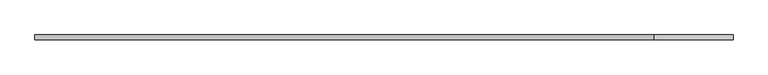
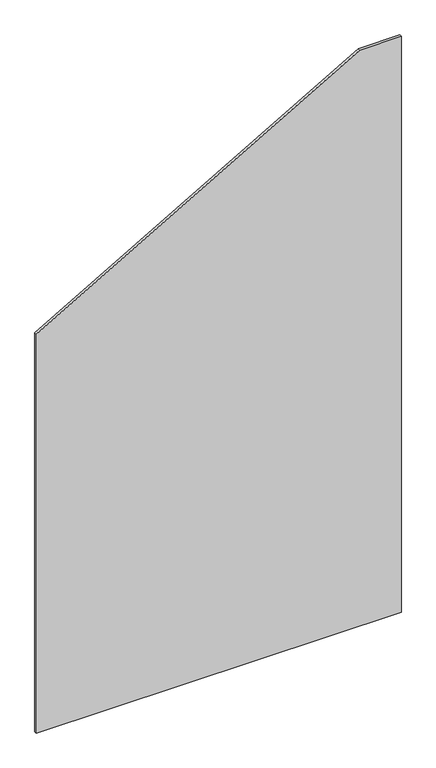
"""IFC4 building model written with IfcOpenShell, lengths in millimetres: plate geometry, 系統嵌板 : 玻璃 1.0cm."""

import ifcopenshell
import ifcopenshell.guid

model = None  # the IFC model being written
_history = None  # IfcOwnerHistory: only IFC2X3 demands one
_inside = {}  # id of a spatial element -> (the spatial element, [elements in it])
_under = {}  # id of a project, library or spatial element -> (it, [spatial elements below it])
_declared = {}  # id of a project -> (the project, [libraries it declares])
_typed = {}  # id of a type object -> (the type object, [elements of that type])
_made_of = {}  # id of a material, layer set ... -> (it, [elements and type objects made of it])


def new_model(schema):
    """Start an empty IFC model of exactly this schema.

    Asked for "IFC4X3", IfcOpenShell would pick the latest addendum, in which some entities
    have other attributes; the version numbers below select the first issue.
    IFC2X3 requires an IfcOwnerHistory on every rooted entity: one is made here for all.
    """
    global model, _history
    if schema == "IFC4X3":
        model = ifcopenshell.file(schema_version=(4, 3, 0, 0))
    else:
        model = ifcopenshell.file(schema=schema)
    _inside.clear()
    _under.clear()
    _declared.clear()
    _typed.clear()
    _made_of.clear()
    _history = None
    if model.schema == "IFC2X3":
        org = make("IfcOrganization", Name="unknown")
        user = make(
            "IfcPersonAndOrganization",
            ThePerson=make("IfcPerson", FamilyName="unknown"),
            TheOrganization=org,
        )
        app = make(
            "IfcApplication",
            ApplicationDeveloper=org,
            Version="unknown",
            ApplicationFullName="unknown",
            ApplicationIdentifier="unknown",
        )
        _history = make(
            "IfcOwnerHistory",
            OwningUser=user,
            OwningApplication=app,
            ChangeAction="ADDED",
            CreationDate=0,
        )
    return model


def make(cls, **values):
    """One entity of the class cls with the attributes given. An attribute that is None is left unset."""
    return model.create_entity(
        cls, **{name: value for name, value in values.items() if value is not None}
    )


def rooted(cls, **values):
    """An entity with a GlobalId (a new one), such as an element, a storey or a relation."""
    return make(cls, GlobalId=ifcopenshell.guid.new(), OwnerHistory=_history, **values)


def si_unit(unit_type, name, prefix=None):
    """IfcSIUnit, for example si_unit("LENGTHUNIT", "METRE", prefix="MILLI")."""
    return make("IfcSIUnit", UnitType=unit_type, Prefix=prefix, Name=name)


def assignment(units):
    """IfcUnitAssignment: the units of a project."""
    return None if units is None else make("IfcUnitAssignment", Units=units)


def point(xyz):
    """IfcCartesianPoint."""
    return None if xyz is None else make("IfcCartesianPoint", Coordinates=xyz)


def direction(xyz):
    """IfcDirection."""
    return None if xyz is None else make("IfcDirection", DirectionRatios=xyz)


def frame(location, z_axis=None, x_axis=None):
    """IfcAxis2Placement3D, a coordinate frame: its origin and axes. An axis left out is left unset."""
    return make(
        "IfcAxis2Placement3D",
        Location=point(location),
        Axis=direction(z_axis),
        RefDirection=direction(x_axis),
    )


def origin():
    """The frame at (0, 0, 0) with its axes left unset."""
    return frame((0.0, 0.0, 0.0))


def place(relative_to, where):
    """IfcLocalPlacement: puts the frame where relative to a parent placement (None: the world)."""
    return make(
        "IfcLocalPlacement", PlacementRelTo=relative_to, RelativePlacement=where
    )


def context(
    kind, dimensions, precision=None, world=None, true_north=None, identifier=None
):
    """IfcGeometricRepresentationContext, for example the 3D "Model" context."""
    return make(
        "IfcGeometricRepresentationContext",
        ContextIdentifier=identifier,
        ContextType=kind,
        CoordinateSpaceDimension=dimensions,
        Precision=precision,
        WorldCoordinateSystem=world,
        TrueNorth=true_north,
    )


def project(units=None, contexts=None):
    """IfcProject with its units and contexts."""
    return rooted(
        "IfcProject",
        Name="project",
        RepresentationContexts=contexts,
        UnitsInContext=assignment(units),
    )


def spatial(cls, under=None, at=None, **own):
    """A site, building, storey or space (cls), placed at a placement, below another one or the project."""
    s = rooted(cls, ObjectPlacement=at, **own)
    if under is not None:
        _under.setdefault(under.id(), (under, []))[1].append(s)
    return s


def polyline(points):
    """IfcPolyline through the points."""
    return make("IfcPolyline", Points=[point(p) for p in points])


def outline(outer, holes=None, kind="AREA"):
    """IfcArbitraryClosedProfileDef: a profile drawn as a closed curve; with holes, ...WithVoids."""
    if holes is None:
        return make("IfcArbitraryClosedProfileDef", ProfileType=kind, OuterCurve=outer)
    return make(
        "IfcArbitraryProfileDefWithVoids",
        ProfileType=kind,
        OuterCurve=outer,
        InnerCurves=holes,
    )


def extrude(swept, where, along, depth):
    """IfcExtrudedAreaSolid: the profile swept, set in the frame where, extruded along a direction by depth."""
    return make(
        "IfcExtrudedAreaSolid",
        SweptArea=swept,
        Position=where,
        ExtrudedDirection=direction(along),
        Depth=depth,
    )


def shape(context_of_items, identifier, shape_type, items):
    """IfcShapeRepresentation: the items that make up one representation, for example the "Body"."""
    return make(
        "IfcShapeRepresentation",
        ContextOfItems=context_of_items,
        RepresentationIdentifier=identifier,
        RepresentationType=shape_type,
        Items=items,
    )


def source(mapping_origin, context_of_items, identifier, shape_type, items):
    """IfcRepresentationMap: a shape defined once, which mapped items show again and again."""
    return make(
        "IfcRepresentationMap",
        MappingOrigin=mapping_origin,
        MappedRepresentation=shape(context_of_items, identifier, shape_type, items),
    )


def transform(
    local_origin,
    x_axis=None,
    y_axis=None,
    z_axis=None,
    scale=None,
    scale2=None,
    scale3=None,
    uniform=True,
):
    """IfcCartesianTransformationOperator3D, or its non-uniform kind. x_axis, y_axis, z_axis: its Axis1, 2, 3."""
    if uniform:
        return make(
            "IfcCartesianTransformationOperator3D",
            Axis1=direction(x_axis),
            Axis2=direction(y_axis),
            LocalOrigin=point(local_origin),
            Scale=scale,
            Axis3=direction(z_axis),
        )
    return make(
        "IfcCartesianTransformationOperator3DnonUniform",
        Axis1=direction(x_axis),
        Axis2=direction(y_axis),
        LocalOrigin=point(local_origin),
        Scale=scale,
        Axis3=direction(z_axis),
        Scale2=scale2,
        Scale3=scale3,
    )


def mapped(mapping_source, mapping_target):
    """IfcMappedItem: shows the shape of a source again, moved by a transform."""
    return make(
        "IfcMappedItem", MappingSource=mapping_source, MappingTarget=mapping_target
    )


def made_of(thing, what):
    """Note that an element or type object is made of a material, layer set ...; save() writes the relation."""
    if what is not None:
        _made_of.setdefault(what.id(), (what, []))[1].append(thing)
    return thing


def element(
    cls,
    number,
    at=None,
    inside=None,
    cuts=None,
    type_object=None,
    material=None,
    context=None,
    identifier="Body",
    shape_type=None,
    held_by="IfcProductDefinitionShape",
    body=None,
    shapes=None,
    **own,
):
    """One element of the class cls, such as IfcWall. Its Tag is "e" and its number.

    at: its placement. inside: the storey or other place that contains it. cuts: it is an
    opening in that element (IfcRelVoidsElement). A single representation is given by context,
    identifier, shape_type and body (its items); several are given by shapes. held_by: the class
    of the entity that holds the representations. save() writes the other relations.
    """
    e = rooted(cls, Tag="e%d" % number, ObjectPlacement=at, **own)
    if body is not None:
        shapes = [shape(context, identifier, shape_type, body)]
    if shapes is not None:
        e.Representation = make(held_by, Representations=shapes)
    if inside is not None:
        _inside.setdefault(inside.id(), (inside, []))[1].append(e)
    if cuts is not None:
        rooted(
            "IfcRelVoidsElement", RelatingBuildingElement=cuts, RelatedOpeningElement=e
        )
    if type_object is not None:
        _typed.setdefault(type_object.id(), (type_object, []))[1].append(e)
    return made_of(e, material)


def aggregate(whole, parts):
    """IfcRelAggregates: a whole, such as a stair, and the parts it consists of."""
    return rooted("IfcRelAggregates", RelatingObject=whole, RelatedObjects=parts)


def save(model, path):
    """Write the relations noted so far, then the file.

    IfcRelAggregates (storeys below a building ...), IfcRelContainedInSpatialStructure (elements
    in a storey), IfcRelDefinesByType, IfcRelAssociatesMaterial and IfcRelDeclares: one each for
    every whole, place, type object, material and project.
    """
    for whole, parts in _under.values():
        aggregate(whole, parts)
    for where, things in _inside.values():
        rooted(
            "IfcRelContainedInSpatialStructure",
            RelatedElements=things,
            RelatingStructure=where,
        )
    for kind, things in _typed.values():
        rooted("IfcRelDefinesByType", RelatedObjects=things, RelatingType=kind)
    for what, things in _made_of.values():
        rooted("IfcRelAssociatesMaterial", RelatedObjects=things, RelatingMaterial=what)
    for by, libraries in _declared.values():
        rooted("IfcRelDeclares", RelatingContext=by, RelatedDefinitions=libraries)
    model.write(path)


def plate_bcce99e1(model_context):
    return source(origin(), model_context, "Body", "SweptSolid", [
        extrude(outline(polyline([(0.0, -750.0), (0.0, 750.0), (2500.0, 750.0), (2500.0, 580.1270189), (1732.0508076, -750.0), (0.0, -750.0)])), frame((0.0, -5.0, 0.0), z_axis=(0.0, 1.0, 0.0), x_axis=(0.0, 0.0, 1.0)), (0.0, 0.0, 1.0), 10.0),
    ])


if __name__ == "__main__":
    model = new_model("IFC4")
    model_context = context("Model", 3, world=origin())
    ifc_project = project(units=[si_unit("LENGTHUNIT", "METRE", prefix="MILLI")], contexts=[model_context])
    site = spatial("IfcSite", under=ifc_project)
    building = spatial("IfcBuilding", under=site)
    placement = place(None, origin())
    plate_shape = plate_bcce99e1(model_context)
    element("IfcPlate", 1, ObjectType="系統嵌板 : 玻璃 1.0cm", at=placement, inside=building, context=model_context, shape_type="MappedRepresentation", body=[
        mapped(plate_shape, transform((0.0, 0.0, 0.0), x_axis=(1.0, 0.0, 0.0), y_axis=(0.0, 1.0, 0.0), z_axis=(0.0, 0.0, 1.0))),
    ])
    save(model, "model.ifc")
